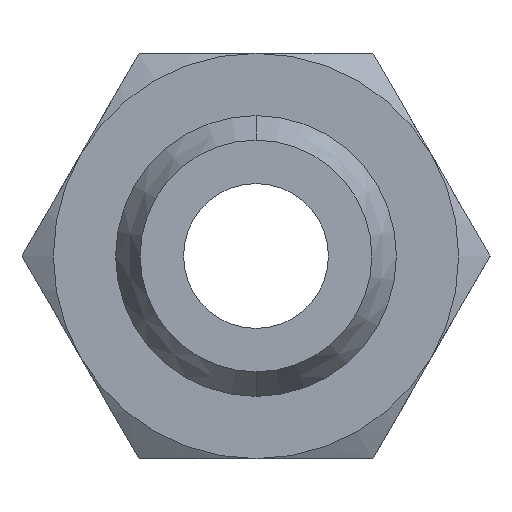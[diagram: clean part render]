
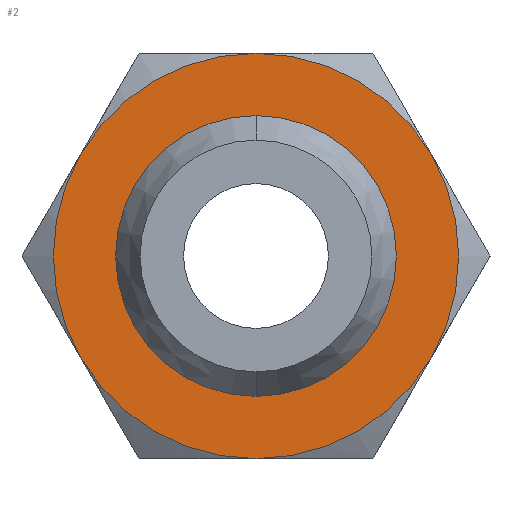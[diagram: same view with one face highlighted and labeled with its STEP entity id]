
A CAD part, front view. The second image highlights one B-rep face of the part: STEP entity #2.
In plain terms, the highlighted planar face has unit normal (0, -1, 0).
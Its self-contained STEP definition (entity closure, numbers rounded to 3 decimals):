
#2 = ADVANCED_FACE ( 'NONE', ( #1124, #1123 ), #61, .T. ) ;
#59 = DIRECTION ( 'NONE',  ( 0., -1., 0. ) ) ;
#61 = PLANE ( 'NONE',  #748 ) ;
#72 = DIRECTION ( 'NONE',  ( 0., 1., 0. ) ) ;
#77 = DIRECTION ( 'NONE',  ( 0., 0., -1. ) ) ;
#78 = CARTESIAN_POINT ( 'NONE',  ( 0., 6., 0. ) ) ;
#79 = DIRECTION ( 'NONE',  ( 0., 0., -1. ) ) ;
#80 = DIRECTION ( 'NONE',  ( 0., 1., 0. ) ) ;
#85 = CARTESIAN_POINT ( 'NONE',  ( 0., 6., 0. ) ) ;
#112 = DIRECTION ( 'NONE',  ( 0., 0., 1. ) ) ;
#113 = DIRECTION ( 'NONE',  ( 0., -1., 0. ) ) ;
#114 = CARTESIAN_POINT ( 'NONE',  ( 0., 6., 0. ) ) ;
#119 = DIRECTION ( 'NONE',  ( 0., 0., 1. ) ) ;
#120 = DIRECTION ( 'NONE',  ( 0., -1., 0. ) ) ;
#121 = CARTESIAN_POINT ( 'NONE',  ( 0., 6., 0. ) ) ;
#158 = DIRECTION ( 'NONE',  ( 0., 0., 1. ) ) ;
#159 = DIRECTION ( 'NONE',  ( 0., -1., 0. ) ) ;
#160 = CARTESIAN_POINT ( 'NONE',  ( 0., 6., 0. ) ) ;
#168 = CARTESIAN_POINT ( 'NONE',  ( -6.062, 6., -3.5 ) ) ;
#184 = DIRECTION ( 'NONE',  ( 0., 0., -1. ) ) ;
#232 = CARTESIAN_POINT ( 'NONE',  ( -6.062, 6., 3.5 ) ) ;
#233 = CARTESIAN_POINT ( 'NONE',  ( 0., 6., 4.85 ) ) ;
#247 = CARTESIAN_POINT ( 'NONE',  ( -7.084, 6., 7.084 ) ) ;
#257 = CARTESIAN_POINT ( 'NONE',  ( 6.062, 6., 3.5 ) ) ;
#263 = CARTESIAN_POINT ( 'NONE',  ( 0., 6., -7. ) ) ;
#281 = CARTESIAN_POINT ( 'NONE',  ( 0., 6., 7. ) ) ;
#305 = CARTESIAN_POINT ( 'NONE',  ( 0., 6., -4.85 ) ) ;
#315 = CARTESIAN_POINT ( 'NONE',  ( 6.062, 6., -3.5 ) ) ;
#328 = DIRECTION ( 'NONE',  ( 0., 0., 1. ) ) ;
#329 = DIRECTION ( 'NONE',  ( 0., -1., 0. ) ) ;
#331 = CARTESIAN_POINT ( 'NONE',  ( 0., 6., 0. ) ) ;
#487 = DIRECTION ( 'NONE',  ( 0., 0., 1. ) ) ;
#490 = DIRECTION ( 'NONE',  ( 0., -1., 0. ) ) ;
#491 = CARTESIAN_POINT ( 'NONE',  ( 0., 6., 0. ) ) ;
#565 = DIRECTION ( 'NONE',  ( 0., 0., 1. ) ) ;
#566 = DIRECTION ( 'NONE',  ( 0., -1., 0. ) ) ;
#568 = CARTESIAN_POINT ( 'NONE',  ( 0., 6., 0. ) ) ;
#613 = VERTEX_POINT ( 'NONE', #315 ) ;
#619 = VERTEX_POINT ( 'NONE', #305 ) ;
#642 = VERTEX_POINT ( 'NONE', #281 ) ;
#662 = VERTEX_POINT ( 'NONE', #257 ) ;
#663 = VERTEX_POINT ( 'NONE', #263 ) ;
#681 = VERTEX_POINT ( 'NONE', #232 ) ;
#707 = VERTEX_POINT ( 'NONE', #233 ) ;
#718 = VERTEX_POINT ( 'NONE', #168 ) ;
#748 = AXIS2_PLACEMENT_3D ( 'NONE', #247, #59, #184 ) ;
#755 = EDGE_CURVE ( 'NONE', #619, #707, #1097, .T. ) ;
#758 = EDGE_CURVE ( 'NONE', #707, #619, #934, .T. ) ;
#774 = EDGE_CURVE ( 'NONE', #718, #663, #955, .T. ) ;
#790 = EDGE_CURVE ( 'NONE', #642, #681, #970, .T. ) ;
#814 = EDGE_CURVE ( 'NONE', #663, #613, #993, .T. ) ;
#842 = AXIS2_PLACEMENT_3D ( 'NONE', #114, #113, #112 ) ;
#843 = AXIS2_PLACEMENT_3D ( 'NONE', #121, #120, #119 ) ;
#848 = AXIS2_PLACEMENT_3D ( 'NONE', #160, #159, #158 ) ;
#853 = AXIS2_PLACEMENT_3D ( 'NONE', #331, #329, #328 ) ;
#863 = AXIS2_PLACEMENT_3D ( 'NONE', #491, #490, #487 ) ;
#873 = AXIS2_PLACEMENT_3D ( 'NONE', #568, #566, #565 ) ;
#884 = AXIS2_PLACEMENT_3D ( 'NONE', #78, #72, #77 ) ;
#886 = AXIS2_PLACEMENT_3D ( 'NONE', #85, #80, #79 ) ;
#922 = EDGE_CURVE ( 'NONE', #681, #718, #1012, .T. ) ;
#930 = EDGE_CURVE ( 'NONE', #613, #662, #1018, .T. ) ;
#931 = EDGE_CURVE ( 'NONE', #662, #642, #1021, .T. ) ;
#934 = CIRCLE ( 'NONE', #884, 4.85 ) ;
#955 = CIRCLE ( 'NONE', #873, 7. ) ;
#970 = CIRCLE ( 'NONE', #863, 7. ) ;
#993 = CIRCLE ( 'NONE', #853, 7. ) ;
#1012 = CIRCLE ( 'NONE', #848, 7. ) ;
#1018 = CIRCLE ( 'NONE', #843, 7. ) ;
#1021 = CIRCLE ( 'NONE', #842, 7. ) ;
#1097 = CIRCLE ( 'NONE', #886, 4.85 ) ;
#1123 = FACE_OUTER_BOUND ( 'NONE', #1137, .T. ) ;
#1124 = FACE_BOUND ( 'NONE', #1177, .T. ) ;
#1137 = EDGE_LOOP ( 'NONE', ( #1207, #1200, #1203, #1202, #1205, #1204 ) ) ;
#1177 = EDGE_LOOP ( 'NONE', ( #1206, #1210 ) ) ;
#1200 = ORIENTED_EDGE ( 'NONE', *, *, #774, .T. ) ;
#1202 = ORIENTED_EDGE ( 'NONE', *, *, #930, .T. ) ;
#1203 = ORIENTED_EDGE ( 'NONE', *, *, #814, .T. ) ;
#1204 = ORIENTED_EDGE ( 'NONE', *, *, #790, .T. ) ;
#1205 = ORIENTED_EDGE ( 'NONE', *, *, #931, .T. ) ;
#1206 = ORIENTED_EDGE ( 'NONE', *, *, #755, .T. ) ;
#1207 = ORIENTED_EDGE ( 'NONE', *, *, #922, .T. ) ;
#1210 = ORIENTED_EDGE ( 'NONE', *, *, #758, .T. ) ;
